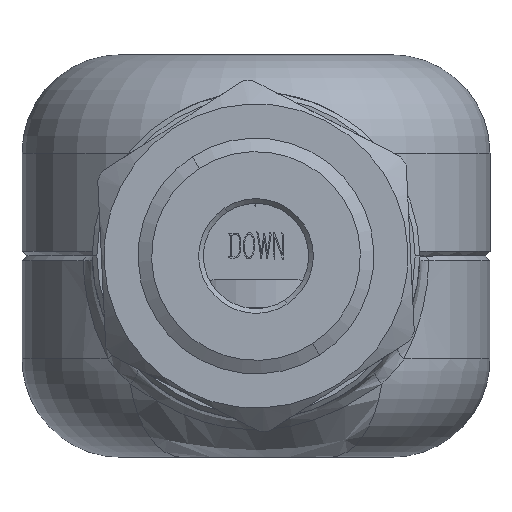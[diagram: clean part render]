
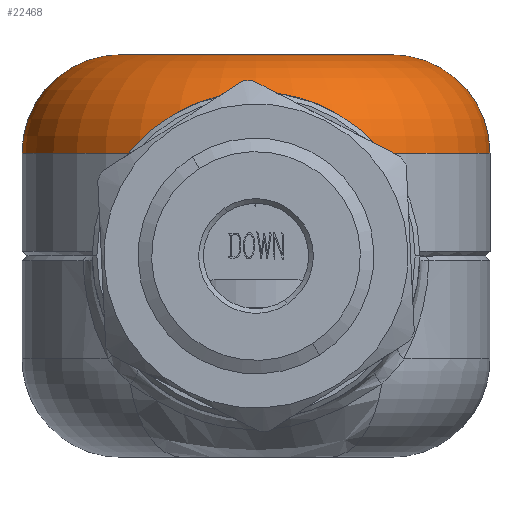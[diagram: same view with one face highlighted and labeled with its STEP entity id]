
A CAD part, front view. The second image highlights one B-rep face of the part: STEP entity #22468.
In plain terms, the highlighted toroidal (fillet/blend) face has major radius 5.8 mm and minor radius 4.2 mm.
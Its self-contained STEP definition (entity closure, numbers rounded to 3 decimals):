
#791 = DIRECTION ( 'NONE',  ( 0., 0., 1. ) ) ;
#1536 = CARTESIAN_POINT ( 'NONE',  ( -5.8, 0., 8.6 ) ) ;
#2649 = CARTESIAN_POINT ( 'NONE',  ( 10., 0., 4.4 ) ) ;
#2698 = AXIS2_PLACEMENT_3D ( 'NONE', #7486, #22740, #34405 ) ;
#3824 = CARTESIAN_POINT ( 'NONE',  ( 5.8, 0., 4.4 ) ) ;
#5174 = AXIS2_PLACEMENT_3D ( 'NONE', #8510, #20206, #5529 ) ;
#5529 = DIRECTION ( 'NONE',  ( -1., 0., 0. ) ) ;
#5926 = DIRECTION ( 'NONE',  ( 0., 0., -1. ) ) ;
#7069 = VERTEX_POINT ( 'NONE', #24459 ) ;
#7486 = CARTESIAN_POINT ( 'NONE',  ( 0., 0., 8.6 ) ) ;
#8510 = CARTESIAN_POINT ( 'NONE',  ( -5.8, 0., 4.4 ) ) ;
#9311 = CARTESIAN_POINT ( 'NONE',  ( 0., 0., 4.4 ) ) ;
#10170 = DIRECTION ( 'NONE',  ( 1., 0., 0. ) ) ;
#11500 = DIRECTION ( 'NONE',  ( -1., 0., 0. ) ) ;
#12150 = CIRCLE ( 'NONE', #5174, 4.2 ) ;
#16785 = EDGE_LOOP ( 'NONE', ( #33437, #35873, #19946, #34872 ) ) ;
#16868 = AXIS2_PLACEMENT_3D ( 'NONE', #3824, #36873, #10170 ) ;
#17876 = CIRCLE ( 'NONE', #26758, 10. ) ;
#18863 = EDGE_CURVE ( 'NONE', #7069, #23903, #12150, .T. ) ;
#19085 = EDGE_CURVE ( 'NONE', #23903, #35808, #38058, .T. ) ;
#19946 = ORIENTED_EDGE ( 'NONE', *, *, #19085, .F. ) ;
#20206 = DIRECTION ( 'NONE',  ( 0., 1., 0. ) ) ;
#20734 = AXIS2_PLACEMENT_3D ( 'NONE', #33656, #791, #34044 ) ;
#21768 = EDGE_CURVE ( 'NONE', #23297, #7069, #17876, .T. ) ;
#22468 = ADVANCED_FACE ( 'NONE', ( #31469 ), #35788, .T. ) ;
#22740 = DIRECTION ( 'NONE',  ( 0., 0., 1. ) ) ;
#23297 = VERTEX_POINT ( 'NONE', #2649 ) ;
#23903 = VERTEX_POINT ( 'NONE', #1536 ) ;
#24459 = CARTESIAN_POINT ( 'NONE',  ( -10., 0., 4.4 ) ) ;
#24907 = EDGE_CURVE ( 'NONE', #23297, #35808, #38966, .T. ) ;
#26758 = AXIS2_PLACEMENT_3D ( 'NONE', #9311, #5926, #11500 ) ;
#31469 = FACE_OUTER_BOUND ( 'NONE', #16785, .T. ) ;
#32355 = CARTESIAN_POINT ( 'NONE',  ( 5.8, 0., 8.6 ) ) ;
#33437 = ORIENTED_EDGE ( 'NONE', *, *, #21768, .F. ) ;
#33656 = CARTESIAN_POINT ( 'NONE',  ( 0., 0., 4.4 ) ) ;
#34044 = DIRECTION ( 'NONE',  ( -1., 0., 0. ) ) ;
#34405 = DIRECTION ( 'NONE',  ( -1., 0., 0. ) ) ;
#34872 = ORIENTED_EDGE ( 'NONE', *, *, #18863, .F. ) ;
#35788 = TOROIDAL_SURFACE ( 'NONE', #20734, 5.8, 4.2 ) ;
#35808 = VERTEX_POINT ( 'NONE', #32355 ) ;
#35873 = ORIENTED_EDGE ( 'NONE', *, *, #24907, .T. ) ;
#36873 = DIRECTION ( 'NONE',  ( 0., -1., 0. ) ) ;
#38058 = CIRCLE ( 'NONE', #2698, 5.8 ) ;
#38966 = CIRCLE ( 'NONE', #16868, 4.2 ) ;
